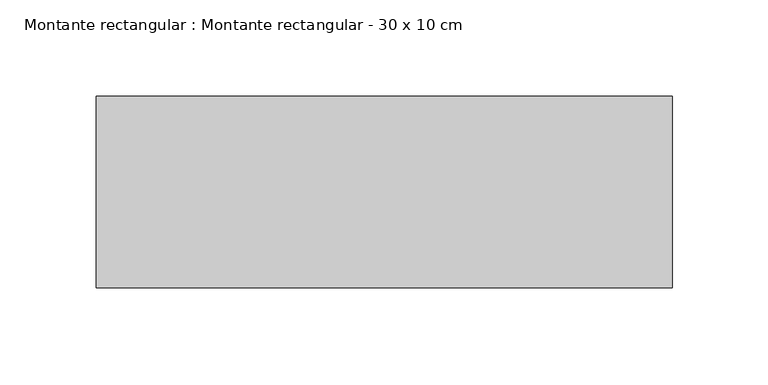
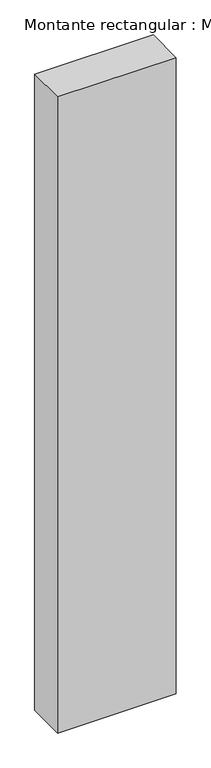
"""IFC4 building model written with IfcOpenShell, lengths in millimetres: member geometry, Montante rectangular : Montante rectangular - 30 x 10 cm."""

import ifcopenshell
import ifcopenshell.guid

model = None  # the IFC model being written
_history = None  # IfcOwnerHistory: only IFC2X3 demands one
_inside = {}  # id of a spatial element -> (the spatial element, [elements in it])
_under = {}  # id of a project, library or spatial element -> (it, [spatial elements below it])
_declared = {}  # id of a project -> (the project, [libraries it declares])
_typed = {}  # id of a type object -> (the type object, [elements of that type])
_made_of = {}  # id of a material, layer set ... -> (it, [elements and type objects made of it])


def new_model(schema):
    """Start an empty IFC model of exactly this schema.

    Asked for "IFC4X3", IfcOpenShell would pick the latest addendum, in which some entities
    have other attributes; the version numbers below select the first issue.
    IFC2X3 requires an IfcOwnerHistory on every rooted entity: one is made here for all.
    """
    global model, _history
    if schema == "IFC4X3":
        model = ifcopenshell.file(schema_version=(4, 3, 0, 0))
    else:
        model = ifcopenshell.file(schema=schema)
    _inside.clear()
    _under.clear()
    _declared.clear()
    _typed.clear()
    _made_of.clear()
    _history = None
    if model.schema == "IFC2X3":
        org = make("IfcOrganization", Name="unknown")
        user = make(
            "IfcPersonAndOrganization",
            ThePerson=make("IfcPerson", FamilyName="unknown"),
            TheOrganization=org,
        )
        app = make(
            "IfcApplication",
            ApplicationDeveloper=org,
            Version="unknown",
            ApplicationFullName="unknown",
            ApplicationIdentifier="unknown",
        )
        _history = make(
            "IfcOwnerHistory",
            OwningUser=user,
            OwningApplication=app,
            ChangeAction="ADDED",
            CreationDate=0,
        )
    return model


def make(cls, **values):
    """One entity of the class cls with the attributes given. An attribute that is None is left unset."""
    return model.create_entity(
        cls, **{name: value for name, value in values.items() if value is not None}
    )


def rooted(cls, **values):
    """An entity with a GlobalId (a new one), such as an element, a storey or a relation."""
    return make(cls, GlobalId=ifcopenshell.guid.new(), OwnerHistory=_history, **values)


def si_unit(unit_type, name, prefix=None):
    """IfcSIUnit, for example si_unit("LENGTHUNIT", "METRE", prefix="MILLI")."""
    return make("IfcSIUnit", UnitType=unit_type, Prefix=prefix, Name=name)


def assignment(units):
    """IfcUnitAssignment: the units of a project."""
    return None if units is None else make("IfcUnitAssignment", Units=units)


def point(xyz):
    """IfcCartesianPoint."""
    return None if xyz is None else make("IfcCartesianPoint", Coordinates=xyz)


def direction(xyz):
    """IfcDirection."""
    return None if xyz is None else make("IfcDirection", DirectionRatios=xyz)


def frame(location, z_axis=None, x_axis=None):
    """IfcAxis2Placement3D, a coordinate frame: its origin and axes. An axis left out is left unset."""
    return make(
        "IfcAxis2Placement3D",
        Location=point(location),
        Axis=direction(z_axis),
        RefDirection=direction(x_axis),
    )


def origin():
    """The frame at (0, 0, 0) with its axes left unset."""
    return frame((0.0, 0.0, 0.0))


def place(relative_to, where):
    """IfcLocalPlacement: puts the frame where relative to a parent placement (None: the world)."""
    return make(
        "IfcLocalPlacement", PlacementRelTo=relative_to, RelativePlacement=where
    )


def context(
    kind, dimensions, precision=None, world=None, true_north=None, identifier=None
):
    """IfcGeometricRepresentationContext, for example the 3D "Model" context."""
    return make(
        "IfcGeometricRepresentationContext",
        ContextIdentifier=identifier,
        ContextType=kind,
        CoordinateSpaceDimension=dimensions,
        Precision=precision,
        WorldCoordinateSystem=world,
        TrueNorth=true_north,
    )


def project(units=None, contexts=None):
    """IfcProject with its units and contexts."""
    return rooted(
        "IfcProject",
        Name="project",
        RepresentationContexts=contexts,
        UnitsInContext=assignment(units),
    )


def spatial(cls, under=None, at=None, **own):
    """A site, building, storey or space (cls), placed at a placement, below another one or the project."""
    s = rooted(cls, ObjectPlacement=at, **own)
    if under is not None:
        _under.setdefault(under.id(), (under, []))[1].append(s)
    return s


def polyline(points):
    """IfcPolyline through the points."""
    return make("IfcPolyline", Points=[point(p) for p in points])


def outline(outer, holes=None, kind="AREA"):
    """IfcArbitraryClosedProfileDef: a profile drawn as a closed curve; with holes, ...WithVoids."""
    if holes is None:
        return make("IfcArbitraryClosedProfileDef", ProfileType=kind, OuterCurve=outer)
    return make(
        "IfcArbitraryProfileDefWithVoids",
        ProfileType=kind,
        OuterCurve=outer,
        InnerCurves=holes,
    )


def extrude(swept, where, along, depth):
    """IfcExtrudedAreaSolid: the profile swept, set in the frame where, extruded along a direction by depth."""
    return make(
        "IfcExtrudedAreaSolid",
        SweptArea=swept,
        Position=where,
        ExtrudedDirection=direction(along),
        Depth=depth,
    )


def shape(context_of_items, identifier, shape_type, items):
    """IfcShapeRepresentation: the items that make up one representation, for example the "Body"."""
    return make(
        "IfcShapeRepresentation",
        ContextOfItems=context_of_items,
        RepresentationIdentifier=identifier,
        RepresentationType=shape_type,
        Items=items,
    )


def source(mapping_origin, context_of_items, identifier, shape_type, items):
    """IfcRepresentationMap: a shape defined once, which mapped items show again and again."""
    return make(
        "IfcRepresentationMap",
        MappingOrigin=mapping_origin,
        MappedRepresentation=shape(context_of_items, identifier, shape_type, items),
    )


def transform(
    local_origin,
    x_axis=None,
    y_axis=None,
    z_axis=None,
    scale=None,
    scale2=None,
    scale3=None,
    uniform=True,
):
    """IfcCartesianTransformationOperator3D, or its non-uniform kind. x_axis, y_axis, z_axis: its Axis1, 2, 3."""
    if uniform:
        return make(
            "IfcCartesianTransformationOperator3D",
            Axis1=direction(x_axis),
            Axis2=direction(y_axis),
            LocalOrigin=point(local_origin),
            Scale=scale,
            Axis3=direction(z_axis),
        )
    return make(
        "IfcCartesianTransformationOperator3DnonUniform",
        Axis1=direction(x_axis),
        Axis2=direction(y_axis),
        LocalOrigin=point(local_origin),
        Scale=scale,
        Axis3=direction(z_axis),
        Scale2=scale2,
        Scale3=scale3,
    )


def mapped(mapping_source, mapping_target):
    """IfcMappedItem: shows the shape of a source again, moved by a transform."""
    return make(
        "IfcMappedItem", MappingSource=mapping_source, MappingTarget=mapping_target
    )


def made_of(thing, what):
    """Note that an element or type object is made of a material, layer set ...; save() writes the relation."""
    if what is not None:
        _made_of.setdefault(what.id(), (what, []))[1].append(thing)
    return thing


def element(
    cls,
    number,
    at=None,
    inside=None,
    cuts=None,
    type_object=None,
    material=None,
    context=None,
    identifier="Body",
    shape_type=None,
    held_by="IfcProductDefinitionShape",
    body=None,
    shapes=None,
    **own,
):
    """One element of the class cls, such as IfcWall. Its Tag is "e" and its number.

    at: its placement. inside: the storey or other place that contains it. cuts: it is an
    opening in that element (IfcRelVoidsElement). A single representation is given by context,
    identifier, shape_type and body (its items); several are given by shapes. held_by: the class
    of the entity that holds the representations. save() writes the other relations.
    """
    e = rooted(cls, Tag="e%d" % number, ObjectPlacement=at, **own)
    if body is not None:
        shapes = [shape(context, identifier, shape_type, body)]
    if shapes is not None:
        e.Representation = make(held_by, Representations=shapes)
    if inside is not None:
        _inside.setdefault(inside.id(), (inside, []))[1].append(e)
    if cuts is not None:
        rooted(
            "IfcRelVoidsElement", RelatingBuildingElement=cuts, RelatedOpeningElement=e
        )
    if type_object is not None:
        _typed.setdefault(type_object.id(), (type_object, []))[1].append(e)
    return made_of(e, material)


def aggregate(whole, parts):
    """IfcRelAggregates: a whole, such as a stair, and the parts it consists of."""
    return rooted("IfcRelAggregates", RelatingObject=whole, RelatedObjects=parts)


def save(model, path):
    """Write the relations noted so far, then the file.

    IfcRelAggregates (storeys below a building ...), IfcRelContainedInSpatialStructure (elements
    in a storey), IfcRelDefinesByType, IfcRelAssociatesMaterial and IfcRelDeclares: one each for
    every whole, place, type object, material and project.
    """
    for whole, parts in _under.values():
        aggregate(whole, parts)
    for where, things in _inside.values():
        rooted(
            "IfcRelContainedInSpatialStructure",
            RelatedElements=things,
            RelatingStructure=where,
        )
    for kind, things in _typed.values():
        rooted("IfcRelDefinesByType", RelatedObjects=things, RelatingType=kind)
    for what, things in _made_of.values():
        rooted("IfcRelAssociatesMaterial", RelatedObjects=things, RelatingMaterial=what)
    for by, libraries in _declared.values():
        rooted("IfcRelDeclares", RelatingContext=by, RelatedDefinitions=libraries)
    model.write(path)


def montante_rectangular_montante_rectangular_30_x_10_cm_e8f464a9(model_context):
    return source(origin(), model_context, "Body", "SweptSolid", [
        extrude(outline(polyline([(-300.0, 50.0), (0.0, 50.0), (0.0, -50.0), (-300.0, -50.0), (-300.0, 50.0)])), frame((0.0, 0.0, -1700.0), z_axis=(0.0, 0.0, 1.0), x_axis=(1.0, 0.0, 0.0)), (0.0, 0.0, 1.0), 1700.0),
    ])


if __name__ == "__main__":
    model = new_model("IFC4")
    model_context = context("Model", 3, world=origin())
    ifc_project = project(units=[si_unit("LENGTHUNIT", "METRE", prefix="MILLI")], contexts=[model_context])
    site = spatial("IfcSite", under=ifc_project)
    building = spatial("IfcBuilding", under=site)
    placement = place(None, origin())
    montante_rectangular_montante_rectangular_30_x_10_cm_shape = montante_rectangular_montante_rectangular_30_x_10_cm_e8f464a9(model_context)
    element("IfcMember", 1, ObjectType="Montante rectangular : Montante rectangular - 30 x 10 cm", at=placement, inside=building, context=model_context, shape_type="MappedRepresentation", body=[
        mapped(montante_rectangular_montante_rectangular_30_x_10_cm_shape, transform((0.0, 0.0, 0.0), x_axis=(1.0, 0.0, 0.0), y_axis=(0.0, 1.0, 0.0), z_axis=(0.0, 0.0, 1.0))),
    ])
    save(model, "model.ifc")
